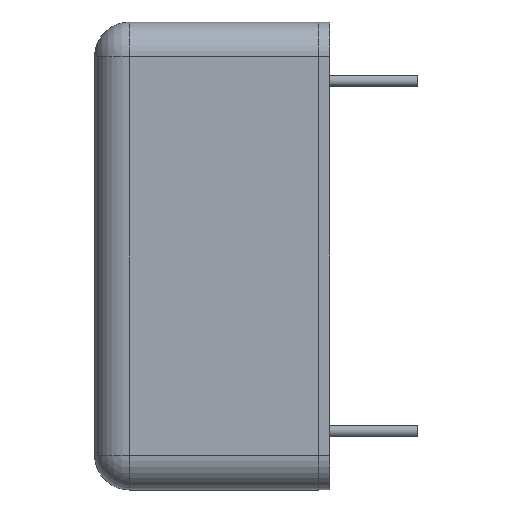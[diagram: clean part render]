
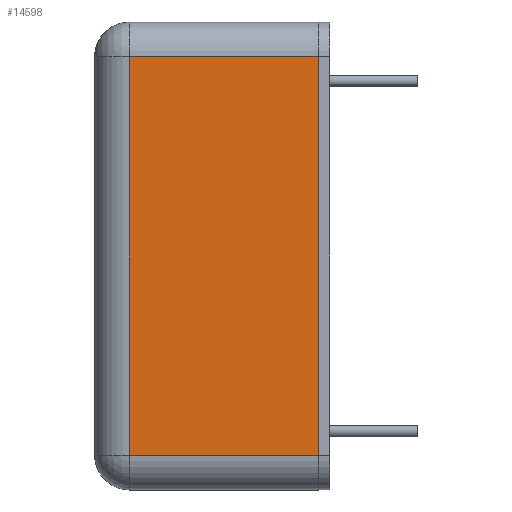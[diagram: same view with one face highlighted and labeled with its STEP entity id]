
A CAD part, left-side view. The second image highlights one B-rep face of the part: STEP entity #14598.
In plain terms, the highlighted planar face has unit normal (-1, 0, 0) as drawn and (0, 0, 1) by its records, which use the part's own axes.
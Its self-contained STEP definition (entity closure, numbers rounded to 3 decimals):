
#288 = CARTESIAN_POINT ( 'NONE',  ( -8.65, 8.2, 15.9 ) ) ;
#1261 = ORIENTED_EDGE ( 'NONE', *, *, #14749, .T. ) ;
#1365 = DIRECTION ( 'NONE',  ( -1., 0., 0. ) ) ;
#1455 = DIRECTION ( 'NONE',  ( 0., 1., 0. ) ) ;
#1618 = CARTESIAN_POINT ( 'NONE',  ( -8.65, 0., 15.9 ) ) ;
#1774 = LINE ( 'NONE', #14526, #16975 ) ;
#1842 = ORIENTED_EDGE ( 'NONE', *, *, #9245, .T. ) ;
#2064 = EDGE_CURVE ( 'NONE', #8336, #4966, #7744, .T. ) ;
#2232 = LINE ( 'NONE', #6721, #12497 ) ;
#2930 = DIRECTION ( 'NONE',  ( 1., 0., 0. ) ) ;
#3097 = EDGE_LOOP ( 'NONE', ( #6761, #7640, #1261, #1842 ) ) ;
#4674 = VECTOR ( 'NONE', #9347, 1000. ) ;
#4966 = VERTEX_POINT ( 'NONE', #1618 ) ;
#5497 = CARTESIAN_POINT ( 'NONE',  ( -8.65, 9.7, 15.9 ) ) ;
#6079 = VERTEX_POINT ( 'NONE', #14925 ) ;
#6721 = CARTESIAN_POINT ( 'NONE',  ( 8.65, 9.7, 15.9 ) ) ;
#6761 = ORIENTED_EDGE ( 'NONE', *, *, #16455, .T. ) ;
#7640 = ORIENTED_EDGE ( 'NONE', *, *, #2064, .T. ) ;
#7744 = LINE ( 'NONE', #5497, #4674 ) ;
#8336 = VERTEX_POINT ( 'NONE', #288 ) ;
#9135 = PLANE ( 'NONE',  #14215 ) ;
#9245 = EDGE_CURVE ( 'NONE', #10932, #6079, #2232, .T. ) ;
#9303 = CARTESIAN_POINT ( 'NONE',  ( -10.15, 9.7, 15.9 ) ) ;
#9347 = DIRECTION ( 'NONE',  ( 0., -1., 0. ) ) ;
#10932 = VERTEX_POINT ( 'NONE', #13771 ) ;
#12294 = LINE ( 'NONE', #13492, #15987 ) ;
#12497 = VECTOR ( 'NONE', #1455, 1000. ) ;
#13321 = DIRECTION ( 'NONE',  ( 0., 0., -1. ) ) ;
#13492 = CARTESIAN_POINT ( 'NONE',  ( -10.15, 0., 15.9 ) ) ;
#13771 = CARTESIAN_POINT ( 'NONE',  ( 8.65, 0., 15.9 ) ) ;
#14215 = AXIS2_PLACEMENT_3D ( 'NONE', #9303, #13321, #15737 ) ;
#14526 = CARTESIAN_POINT ( 'NONE',  ( -10.15, 8.2, 15.9 ) ) ;
#14598 = ADVANCED_FACE ( 'NONE', ( #16422 ), #9135, .F. ) ;
#14749 = EDGE_CURVE ( 'NONE', #4966, #10932, #12294, .T. ) ;
#14925 = CARTESIAN_POINT ( 'NONE',  ( 8.65, 8.2, 15.9 ) ) ;
#15737 = DIRECTION ( 'NONE',  ( -1., 0., 0. ) ) ;
#15987 = VECTOR ( 'NONE', #2930, 1000. ) ;
#16422 = FACE_OUTER_BOUND ( 'NONE', #3097, .T. ) ;
#16455 = EDGE_CURVE ( 'NONE', #6079, #8336, #1774, .T. ) ;
#16975 = VECTOR ( 'NONE', #1365, 1000. ) ;
